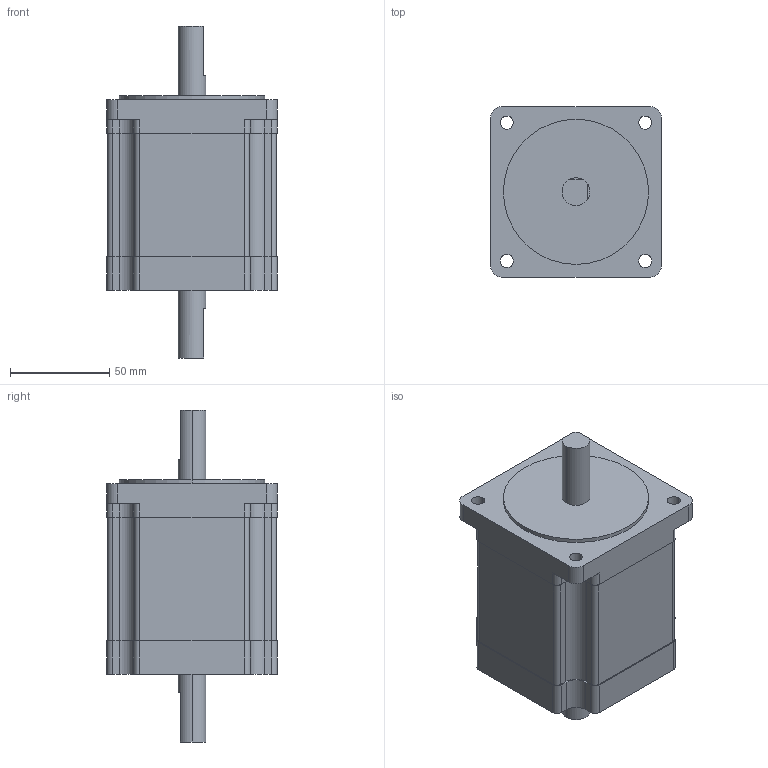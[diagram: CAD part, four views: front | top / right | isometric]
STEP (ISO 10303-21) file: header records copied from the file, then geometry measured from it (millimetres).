
FILE_DESCRIPTION (( 'STEP AP214' ), '1' );
FILE_NAME ('EXMK299-02B.STEP', '2016-09-09T06:09:18', ( 'hoho' ), ( '' ), 'SwSTEP 2.0', 'SolidWorks 2013', '' );
FILE_SCHEMA (( 'AUTOMOTIVE_DESIGN' ));
Length unit declared in the file: millimetre
Products named in the file (1): EXMK299-02B
Bounding box: 85.8 x 85.8 x 167 mm (x, y, z)
Volume: 653295.4 mm3; surface area: 49742.1 mm2
Topology: 1 solids, 1 shells, 109 faces, 306 edges, 204 vertices
Faces by surface type: plane 55, cylinder 54
Entity records: 3892 total; most frequent: DIRECTION 642, CARTESIAN_POINT 620, ORIENTED_EDGE 612, EDGE_CURVE 306, AXIS2_PLACEMENT_3D 226, VERTEX_POINT 204, LINE 190, VECTOR 190
